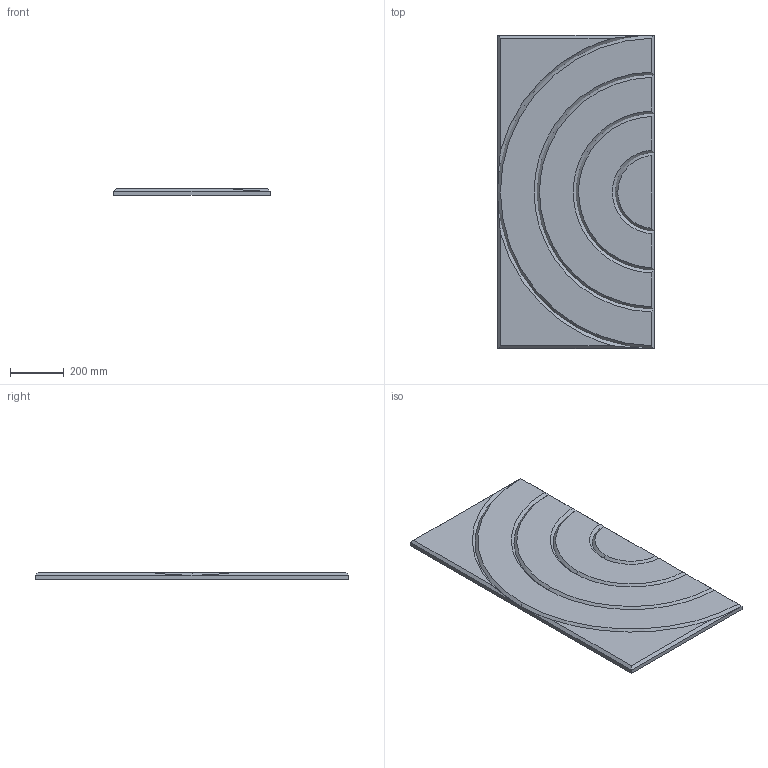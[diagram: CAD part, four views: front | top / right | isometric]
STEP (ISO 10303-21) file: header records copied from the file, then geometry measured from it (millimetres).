
FILE_DESCRIPTION (( 'STEP AP214' ), '1' );
FILE_NAME ('PANEL_HALF CIRCLE.STEP', '2017-10-30T15:25:01', ( '' ), ( '' ), 'SwSTEP 2.0', 'SolidWorks 2014', '' );
FILE_SCHEMA (( 'AUTOMOTIVE_DESIGN' ));
Length unit declared in the file: millimetre
Products named in the file (1): PANEL_HALF CIRCLE
Bounding box: 580 x 1160 x 25 mm (x, y, z)
Volume: 16228378.7 mm3; surface area: 1445912.5 mm2
Topology: 1 solids, 1 shells, 38 faces, 81 edges, 45 vertices
Faces by surface type: plane 22, bspline 16
Entity records: 2437 total; most frequent: CARTESIAN_POINT 1313, ORIENTED_EDGE 162, DIRECTION 85, EDGE_CURVE 81, VERTEX_POINT 45, B_SPLINE_CURVE_WITH_KNOTS 42, UNCERTAINTY_MEASURE_WITH_UNIT 41, SURFACE_SIDE_STYLE 40
